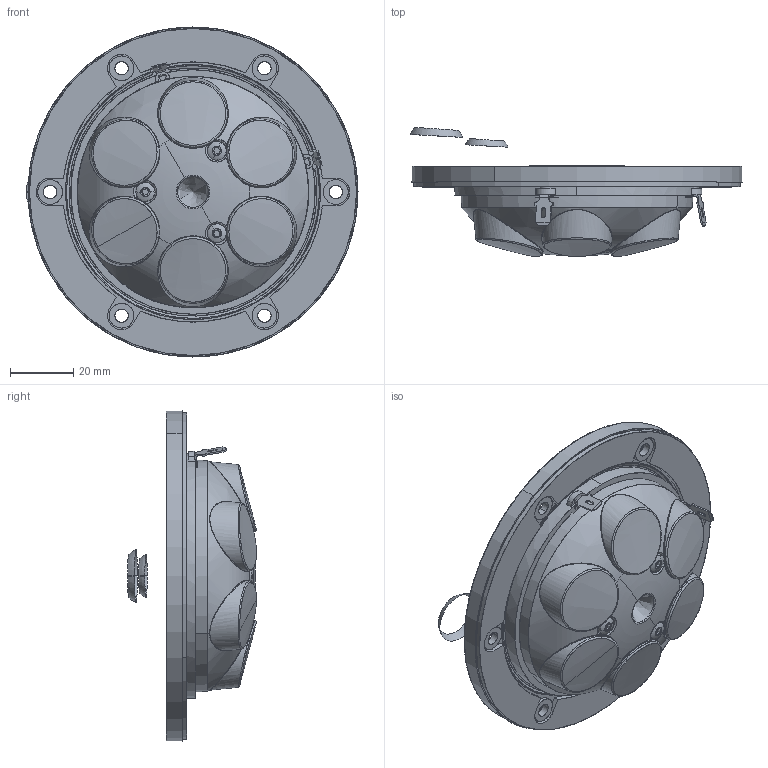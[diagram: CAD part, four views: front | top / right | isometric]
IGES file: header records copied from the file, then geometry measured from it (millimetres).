
Start section: SolidWorks IGES file using analytic representation for surfaces
Global section: file name: W:\TT\WEB 3D ENHEDER VER2\D3004_664000\D3004-664000.IGS; native system: SolidWorks 2019; preprocessor: SolidWorks 2019; author: mhn; date: 201029.073114; units: millimetre
Bounding box: 104.59 x 40.65 x 103.97 mm (x, y, z)
Surface area: 35365.8 mm2 (no closed solid volume)
Topology: 0 solids, 0 shells, 2035 faces, 19770 edges, 19694 vertices
Faces by surface type: bspline 1599, revolution 436
